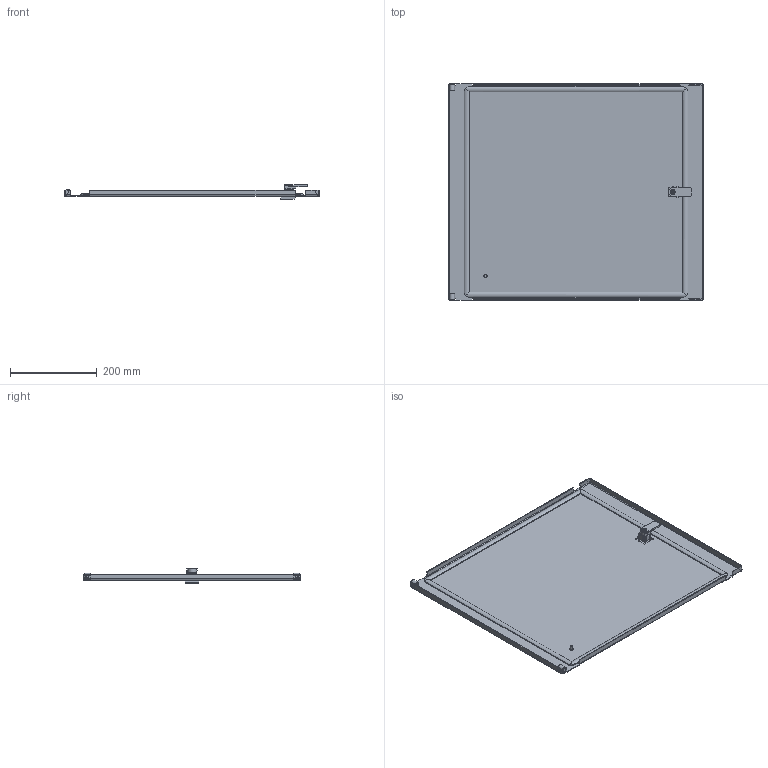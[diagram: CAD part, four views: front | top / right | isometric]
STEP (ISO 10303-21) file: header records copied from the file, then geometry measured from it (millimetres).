
FILE_DESCRIPTION(('STEP AP203'), '1');
FILE_NAME('Äâåðü ñåêöèîííàÿ 500õ600 ìì OptiBox M 419377 ÊÝÀÇ', '', ('UNSPECIFIED'), ('UNSPECIFIED'), 'C3D Converter', 'C3D Toolkit', '');
FILE_SCHEMA(('CONFIG_CONTROL_DESIGN'));
Length unit declared in the file: millimetre
Bounding box: 586.4 x 497 x 32.2 mm (x, y, z)
Volume: 734072 mm3; surface area: 700297.3 mm2
Topology: 6 solids, 6 shells, 355 faces, 928 edges, 588 vertices
Faces by surface type: plane 252, cylinder 92, bspline 8, cone 2, torus 1
Full cylindrical faces by diameter (mm): 0.75 x1, 1 x1, 3 x1, 5 x2, 6 x1, 7.5 x1, 9.3 x1, 10 x1, 20 x1
Entity records: 11864 total; most frequent: CARTESIAN_POINT 3095, ORIENTED_EDGE 1830, DIRECTION 1731, EDGE_CURVE 915, LINE 705, VECTOR 705, VERTEX_POINT 588, AXIS2_PLACEMENT_3D 513
